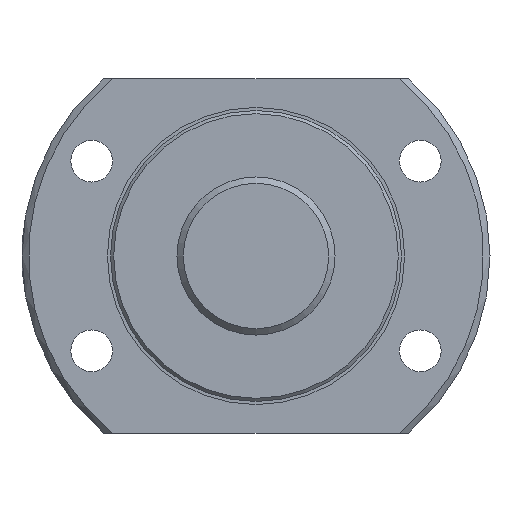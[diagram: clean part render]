
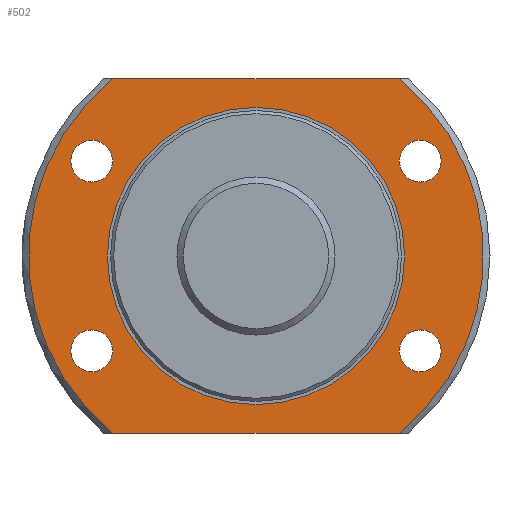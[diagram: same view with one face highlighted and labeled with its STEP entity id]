
A CAD part, left-side view. The second image highlights one B-rep face of the part: STEP entity #502.
In plain terms, the highlighted planar face has unit normal (-1, 0, 0).
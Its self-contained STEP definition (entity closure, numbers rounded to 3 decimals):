
#34=LINE('',#918,#42);
#35=LINE('',#919,#43);
#42=VECTOR('',#732,1000.);
#43=VECTOR('',#733,1000.);
#145=ORIENTED_EDGE('',*,*,#232,.T.);
#146=ORIENTED_EDGE('',*,*,#233,.F.);
#147=ORIENTED_EDGE('',*,*,#205,.F.);
#148=ORIENTED_EDGE('',*,*,#234,.F.);
#149=ORIENTED_EDGE('',*,*,#230,.F.);
#150=ORIENTED_EDGE('',*,*,#235,.T.);
#151=ORIENTED_EDGE('',*,*,#236,.T.);
#152=ORIENTED_EDGE('',*,*,#237,.T.);
#153=ORIENTED_EDGE('',*,*,#238,.T.);
#205=EDGE_CURVE('',#259,#257,#299,.T.);
#230=EDGE_CURVE('',#278,#279,#317,.T.);
#232=EDGE_CURVE('',#280,#280,#318,.T.);
#233=EDGE_CURVE('',#257,#278,#34,.T.);
#234=EDGE_CURVE('',#279,#259,#35,.T.);
#235=EDGE_CURVE('',#281,#281,#319,.T.);
#236=EDGE_CURVE('',#282,#282,#320,.T.);
#237=EDGE_CURVE('',#283,#283,#321,.T.);
#238=EDGE_CURVE('',#284,#284,#322,.T.);
#257=VERTEX_POINT('',#833);
#259=VERTEX_POINT('',#840);
#278=VERTEX_POINT('',#908);
#279=VERTEX_POINT('',#910);
#280=VERTEX_POINT('',#917);
#281=VERTEX_POINT('',#921);
#282=VERTEX_POINT('',#923);
#283=VERTEX_POINT('',#925);
#284=VERTEX_POINT('',#927);
#299=CIRCLE('',#559,36.);
#317=CIRCLE('',#592,36.);
#318=CIRCLE('',#594,23.5);
#319=CIRCLE('',#595,3.3);
#320=CIRCLE('',#596,3.3);
#321=CIRCLE('',#597,3.3);
#322=CIRCLE('',#598,3.3);
#370=EDGE_LOOP('',(#145));
#371=EDGE_LOOP('',(#146,#147,#148,#149));
#372=EDGE_LOOP('',(#150));
#373=EDGE_LOOP('',(#151));
#374=EDGE_LOOP('',(#152));
#375=EDGE_LOOP('',(#153));
#440=FACE_BOUND('',#370,.T.);
#441=FACE_BOUND('',#371,.T.);
#442=FACE_BOUND('',#372,.T.);
#443=FACE_BOUND('',#373,.T.);
#444=FACE_BOUND('',#374,.T.);
#445=FACE_BOUND('',#375,.T.);
#475=PLANE('',#593);
#502=ADVANCED_FACE('',(#440,#441,#442,#443,#444,#445),#475,.T.);
#559=AXIS2_PLACEMENT_3D('',#841,#656,#657);
#592=AXIS2_PLACEMENT_3D('',#909,#726,#727);
#593=AXIS2_PLACEMENT_3D('',#915,#728,#729);
#594=AXIS2_PLACEMENT_3D('',#916,#730,#731);
#595=AXIS2_PLACEMENT_3D('',#920,#734,#735);
#596=AXIS2_PLACEMENT_3D('',#922,#736,#737);
#597=AXIS2_PLACEMENT_3D('',#924,#738,#739);
#598=AXIS2_PLACEMENT_3D('',#926,#740,#741);
#656=DIRECTION('',(1.,0.,0.));
#657=DIRECTION('',(0.,0.,-1.));
#726=DIRECTION('',(1.,0.,0.));
#727=DIRECTION('',(0.,0.,-1.));
#728=DIRECTION('',(-1.,0.,0.));
#729=DIRECTION('',(0.,0.,1.));
#730=DIRECTION('',(1.,0.,0.));
#731=DIRECTION('',(0.,0.,-1.));
#732=DIRECTION('',(0.,1.,0.));
#733=DIRECTION('',(0.,-1.,0.));
#734=DIRECTION('',(1.,0.,0.));
#735=DIRECTION('',(0.,0.,-1.));
#736=DIRECTION('',(1.,0.,0.));
#737=DIRECTION('',(0.,0.,-1.));
#738=DIRECTION('',(1.,0.,0.));
#739=DIRECTION('',(0.,0.,-1.));
#740=DIRECTION('',(1.,0.,0.));
#741=DIRECTION('',(0.,0.,-1.));
#833=CARTESIAN_POINT('',(7.,-22.627,-28.));
#840=CARTESIAN_POINT('',(7.,-22.627,28.));
#841=CARTESIAN_POINT('',(7.,0.,0.));
#908=CARTESIAN_POINT('',(7.,22.627,-28.));
#909=CARTESIAN_POINT('',(7.,0.,0.));
#910=CARTESIAN_POINT('',(7.,22.627,28.));
#915=CARTESIAN_POINT('',(7.,36.,0.));
#916=CARTESIAN_POINT('',(7.,0.,0.));
#917=CARTESIAN_POINT('',(7.,0.,-23.5));
#918=CARTESIAN_POINT('',(7.,36.,-28.));
#919=CARTESIAN_POINT('',(7.,36.,28.));
#920=CARTESIAN_POINT('',(7.,-25.981,15.));
#921=CARTESIAN_POINT('',(7.,-25.981,11.7));
#922=CARTESIAN_POINT('',(7.,-25.981,-15.));
#923=CARTESIAN_POINT('',(7.,-25.981,-18.3));
#924=CARTESIAN_POINT('',(7.,25.981,-15.));
#925=CARTESIAN_POINT('',(7.,25.981,-18.3));
#926=CARTESIAN_POINT('',(7.,25.981,15.));
#927=CARTESIAN_POINT('',(7.,25.981,11.7));
